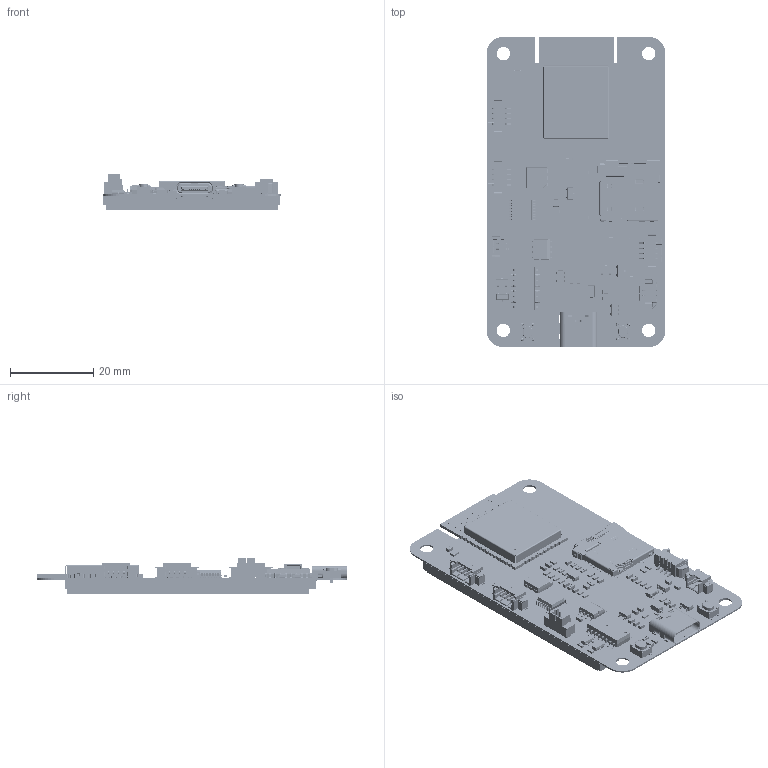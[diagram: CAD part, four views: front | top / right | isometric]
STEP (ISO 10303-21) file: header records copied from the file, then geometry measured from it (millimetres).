
FILE_DESCRIPTION(('Open CASCADE Model'),'2;1');
FILE_NAME('Open CASCADE Shape Model','2026-02-07T09:33:49',('Author'),( 'Open CASCADE'),'Open CASCADE STEP processor 7.5','Open CASCADE 7.5' ,'Unknown');
FILE_SCHEMA(('AUTOMOTIVE_DESIGN { 1 0 10303 214 1 1 1 1 }'));
Length unit declared in the file: millimetre
Products named in the file (405): PCB; Board; Open CASCADE STEP translator 7.5 2.1.1; Designator4; 6600987088; Extruded; 6600986928; 6600986768; JP1; xb-x9821wvs-02-9tsn; Open CASCADE STEP translator 7.5 2.3.1.1; Open CASCADE STEP translator 7.5 2.3.1.2; Open CASCADE STEP translator 7.5 2.3.1.3; Open CASCADE STEP translator 7.5 2.3.1.4; Open CASCADE STEP translator 7.5 2.3.1.5; Open CASCADE STEP translator 7.5 2.3.1.6; Open CASCADE STEP translator 7.5 2.3.1.7; Open CASCADE STEP translator 7.5 2.3.1.8; Open CASCADE STEP translator 7.5 2.3.1.9; Open CASCADE STEP translator 7.5 2.3.1.10; Open CASCADE STEP translator 7.5 2.3.1.11; Open CASCADE STEP translator 7.5 2.3.1.12; Open CASCADE STEP translator 7.5 2.3.1.13; Open CASCADE STEP translator 7.5 2.3.1.14; Open CASCADE STEP translator 7.5 2.3.1.15; Open CASCADE STEP translator 7.5 2.3.1.16; Open CASCADE STEP translator 7.5 2.3.1.17; Open CASCADE STEP translator 7.5 2.3.1.18; Open CASCADE STEP translator 7.5 2.3.1.19; Open CASCADE STEP translator 7.5 2.3.1.20; Open CASCADE STEP translator 7.5 2.3.1.21; Open CASCADE STEP translator 7.5 2.3.1.22; Open CASCADE STEP translator 7.5 2.3.1.23; Open CASCADE STEP translator 7.5 2.3.1.24; Open CASCADE STEP translator 7.5 2.3.1.25; Open CASCADE STEP translator 7.5 2.3.1.26; Open CASCADE STEP translator 7.5 2.3.1.27; Open CASCADE STEP translator 7.5 2.3.1.28; Open CASCADE STEP translator 7.5 2.3.1.29; Open CASCADE STEP translator 7.5 2.3.1.30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
Assembly tree (520 placements, depth 9):
  PCB
    Board
      Open CASCADE STEP translator 7.5 2.1.1
    Designator4
      6600987088
        Extruded
      6600986928
        Extruded
      6600986768
        Extruded
    JP1
      xb-x9821wvs-02-9tsn
        Open CASCADE STEP translator 7.5 2.3.1.1
        Open CASCADE STEP translator 7.5 2.3.1.2
        Open CASCADE STEP translator 7.5 2.3.1.3
        Open CASCADE STEP translator 7.5 2.3.1.4
        Open CASCADE STEP translator 7.5 2.3.1.5
        Open CASCADE STEP translator 7.5 2.3.1.6
        Open CASCADE STEP translator 7.5 2.3.1.7
        Open CASCADE STEP translator 7.5 2.3.1.8
        Open CASCADE STEP translator 7.5 2.3.1.9
        Open CASCADE STEP translator 7.5 2.3.1.10
        Open CASCADE STEP translator 7.5 2.3.1.11
        Open CASCADE STEP translator 7.5 2.3.1.12
        Open CASCADE STEP translator 7.5 2.3.1.13
        Open CASCADE STEP translator 7.5 2.3.1.14
        Open CASCADE STEP translator 7.5 2.3.1.15
        Open CASCADE STEP translator 7.5 2.3.1.16
        Open CASCADE STEP translator 7.5 2.3.1.17
        Open CASCADE STEP translator 7.5 2.3.1.18
        Open CASCADE STEP translator 7.5 2.3.1.19
        Open CASCADE STEP translator 7.5 2.3.1.20
        Open CASCADE STEP translator 7.5 2.3.1.21
        Open CASCADE STEP translator 7.5 2.3.1.22
        Open CASCADE STEP translator 7.5 2.3.1.23
        Open CASCADE STEP translator 7.5 2.3.1.24
        Open CASCADE STEP translator 7.5 2.3.1.25
        Open CASCADE STEP translator 7.5 2.3.1.26
        Open CASCADE STEP translator 7.5 2.3.1.27
        Open CASCADE STEP translator 7.5 2.3.1.28
        Open CASCADE STEP translator 7.5 2.3.1.29
        Open CASCADE STEP translator 7.5 2.3.1.30
        Open CASCADE STEP translator 7.5 2.3.1.31
        Open CASCADE STEP translator 7.5 2.3.1.32
        Open CASCADE STEP translator 7.5 2.3.1.33
        Open CASCADE STEP translator 7.5 2.3.1.34
        Open CASCADE STEP translator 7.5 2.3.1.35
        Open CASCADE STEP translator 7.5 2.3.1.36
        Open CASCADE STEP translator 7.5 2.3.1.37
        Open CASCADE STEP translator 7.5 2.3.1.38
        Open CASCADE STEP translator 7.5 2.3.1.39
        Open CASCADE STEP translator 7.5 2.3.1.40
        Open CASCADE STEP translator 7.5 2.3.1.41
    U5
      User Library-sop8_model
        pin5to8_sop8  x8
        sop8_body
    SD_CARD1
      User Library-MEM2055-00-190-01-A_revG
    JP2
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Bounding box: 42.89 x 74.34 x 8.41 mm (x, y, z)
Volume: 5325.9 mm3; surface area: 23601.5 mm2
Topology: 789 solids, 1739 shells, 21277 faces, 56619 edges, 38239 vertices
Faces by surface type: plane 12134, bspline 5285, cylinder 3062, sphere 474, torus 202, extrusion 93, cone 17, revolution 10
Full cylindrical faces by diameter (mm): 1 x2, 3.2 x4
Entity records: 434130 total; most frequent: CARTESIAN_POINT 148376, ORIENTED_EDGE 55108, DIRECTION 42180, EDGE_CURVE 30112, VERTEX_POINT 21333, VECTOR 17746, LINE 17715, AXIS2_PLACEMENT_3D 12212
